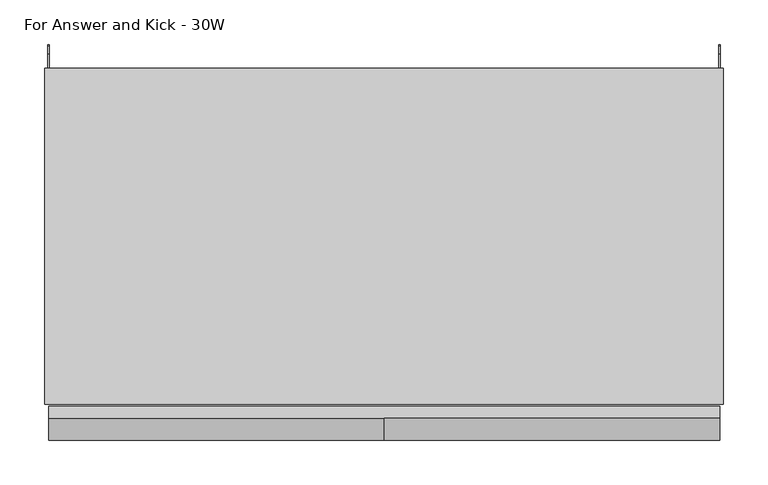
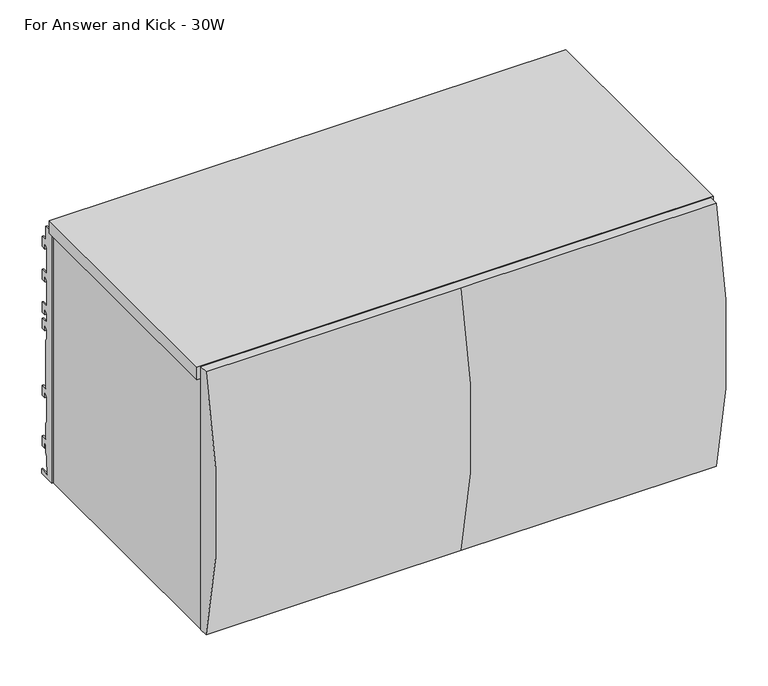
"""IFC4 building model written with IfcOpenShell, lengths in millimetres: furniture geometry, Steelcase - Universal Storage - Over the Case Bin - Radius Front : For Answer and Kick - 30W."""

from ifc_helpers import new_model, si_unit, frame, origin, place, context, project, spatial, polyline, circle_curve, outline, extrude, source, transform, mapped, element, save
from ifc_brep_helpers import plane_surface, cylinder_surface, advanced_brep


def for_answer_and_kick_30w_85c1f83b(model_context):
    return source(origin(), model_context, "Body", "SolidModel", [
        extrude(outline(polyline([(0.0, 1657.096), (15.428165, 1657.096), (15.428165, 1635.9725192), (24.6737648, 1635.9725192), (24.6737648, 1620.2499324), (17.7141651, 1620.2499324), (17.7141651, 1627.4034202), (15.428165, 1627.4034202), (13.3707653, 1623.8398995), (13.3707653, 1584.7332049), (24.4959651, 1584.7332049), (24.4959651, 1569.0106181), (17.7141651, 1569.0106181), (17.7141651, 1576.1734076), (15.428165, 1576.1734076), (13.3707653, 1572.6099624), (13.3707653, 1533.4938907), (24.6737648, 1533.4938907), (24.6737648, 1517.7713038), (17.5768, 1517.7713038), (17.5768, 1524.9340934), (15.4248855, 1524.9340934), (13.3349998, 1521.3219111), (13.3349998, 1508.4166423), (24.6737648, 1508.4166423), (24.6737648, 1492.6940555), (17.5768, 1492.6940555), (17.5768, 1499.856845), (15.4205129, 1499.856845), (13.3933344, 1496.3530466), (13.3933344, 1483.6530466), (15.428165, 1479.2893385), (15.428165, 1403.8551467), (24.6737648, 1403.8551467), (24.6737648, 1388.1325599), (17.7141651, 1388.1325599), (17.7141651, 1395.2982562), (15.428165, 1395.2982562), (13.3306079, 1391.6651808), (13.3306079, 1353.5651808), (15.428165, 1349.9321054), (15.428165, 1325.1000701), (24.6737648, 1325.1000701), (24.6737648, 1309.3774833), (17.7141651, 1309.3774833), (17.7141651, 1316.5328605), (15.428165, 1316.5328605), (15.428165, 1303.5355433), (13.2046809, 1299.684356), (13.2046809, 1282.9679719), (11.2879653, 1282.9679719), (11.2879653, 1271.9303504), (26.4009645, 1271.9303504), (26.4009645, 1265.428), (0.0, 1265.428), (0.0, 1657.096)])), frame((756.4882, 0.0, 0.0), z_axis=(1.0, 0.0, 0.0), x_axis=(0.0, 1.0, 0.0)), (0.0, 0.0, 1.0), 1.905),
        extrude(outline(polyline([(0.0, 1657.096), (15.428165, 1657.096), (15.428165, 1635.9725192), (24.6737648, 1635.9725192), (24.6737648, 1620.2499324), (17.7141651, 1620.2499324), (17.7141651, 1627.4034202), (15.428165, 1627.4034202), (13.3707653, 1623.8398995), (13.3707653, 1584.7332049), (24.4959651, 1584.7332049), (24.4959651, 1569.0106181), (17.7141651, 1569.0106181), (17.7141651, 1576.1734076), (15.428165, 1576.1734076), (13.3707653, 1572.6099624), (13.3707653, 1533.4938907), (24.6737648, 1533.4938907), (24.6737648, 1517.7713038), (17.5768, 1517.7713038), (17.5768, 1524.9340934), (15.4248855, 1524.9340934), (13.3349998, 1521.3219111), (13.3349998, 1508.4166423), (24.6737648, 1508.4166423), (24.6737648, 1492.6940555), (17.5768, 1492.6940555), (17.5768, 1499.856845), (15.4205129, 1499.856845), (13.3933344, 1496.3530466), (13.3933344, 1483.6530466), (15.428165, 1479.2893385), (15.428165, 1403.8551467), (24.6737648, 1403.8551467), (24.6737648, 1388.1325599), (17.7141651, 1388.1325599), (17.7141651, 1395.2982562), (15.428165, 1395.2982562), (13.3306079, 1391.6651808), (13.3306079, 1353.5651808), (15.428165, 1349.9321054), (15.428165, 1325.1000701), (24.6737648, 1325.1000701), (24.6737648, 1309.3774833), (17.7141651, 1309.3774833), (17.7141651, 1316.5328605), (15.428165, 1316.5328605), (15.428165, 1303.5355433), (13.2046809, 1299.684356), (13.2046809, 1282.9679719), (11.2879653, 1282.9679719), (11.2879653, 1271.9303504), (26.4009645, 1271.9303504), (26.4009645, 1265.428), (0.0, 1265.428), (0.0, 1657.096)])), frame((3.6068, 0.0, 0.0), z_axis=(1.0, 0.0, 0.0), x_axis=(0.0, 1.0, 0.0)), (0.0, 0.0, 1.0), 1.905),
        advanced_brep(
        [(757.5703, -393.0769518, 1677.2612846), (757.5703, -393.0769518, 1266.8226746), (757.5703, -379.476, 1266.8226746), (757.5703, -379.476, 1677.2612846), (381.0, -393.0769518, 1677.2612846), (381.0, -393.0769518, 1266.8226746), (4.4448587, -393.0769518, 1266.8226746), (4.4448587, -379.476, 1266.8226746), (4.4448587, -379.476, 1677.2612846), (4.4448587, -393.0769518, 1677.2612846)],
        [
            (0, 1, circle_curve(frame((757.5703, 352.6331971, 1472.0419796), z_axis=(1.0, 0.0, 0.0), x_axis=(0.0, 1.0, 0.0)), 773.4329895)),
            (1, 2),
            (2, 3),
            (3, 0),
            (0, 4),
            (4, 5, circle_curve(frame((381.0, 352.6331971, 1472.0419796), z_axis=(1.0, 0.0, 0.0), x_axis=(0.0, 1.0, 0.0)), 773.4329895)),
            (5, 1),
            (5, 6),
            (6, 7),
            (7, 2),
            (7, 8),
            (8, 3),
            (8, 9),
            (9, 4),
            (6, 9, circle_curve(frame((4.4448587, 352.6331971, 1472.0419796), z_axis=(-1.0, 0.0, 0.0), x_axis=(0.0, 1.0, 0.0)), 773.4329895)),
        ],
        [
            plane_surface(frame((757.5703, 1126.0661866, 1472.0419796), z_axis=(1.0, 0.0, 0.0), x_axis=(0.0, 0.0, 1.0))),
            cylinder_surface(frame((381.0, 352.6331971, 1472.0419796), z_axis=(1.0, 0.0, 0.0), x_axis=(0.0, 1.0, 0.0)), 773.4329895),
            plane_surface(frame((757.5703, -393.0769518, 1266.8226746), z_axis=(0.0, 0.0, -1.0), x_axis=(-1.0, 0.0, 0.0))),
            plane_surface(frame((757.5703, -379.476, 1266.8226746), z_axis=(0.0, 1.0, 0.0), x_axis=(-1.0, 0.0, 0.0))),
            plane_surface(frame((757.5703, -379.476, 1677.2612846), z_axis=(0.0, 0.0, 1.0), x_axis=(-1.0, 0.0, 0.0))),
            plane_surface(frame((4.4448587, 1126.0661866, 1472.0419796), z_axis=(-1.0, 0.0, 0.0), x_axis=(0.0, 0.0, -1.0))),
            cylinder_surface(frame((4.4448587, 352.6331971, 1472.0419796), z_axis=(1.0, 0.0, 0.0), x_axis=(0.0, 1.0, 0.0)), 773.4329895),
        ],
        [
            (0, [[1, 2, 3, 4]]),
            (1, [[-1, 5, 6, 7]]),
            (2, [[-2, -7, 8, 9, 10]]),
            (3, [[-3, -10, 11, 12]]),
            (4, [[-4, -12, 13, 14, -5]]),
            (5, [[-13, -11, -9, 15]]),
            (6, [[-15, -8, -6, -14]]),
        ],
    ),
        extrude(outline(polyline([(762.0, -377.213238), (0.0, -377.213238), (0.0, 0.0), (762.0, 0.0), (762.0, -377.213238)])), frame((0.0, 0.0, 1657.35), z_axis=(0.0, 0.0, 1.0), x_axis=(1.0, 0.0, 0.0)), (0.0, 0.0, 1.0), 19.05),
        extrude(outline(polyline([(15.875, -377.213238), (5.5118, -377.213238), (5.5118, 0.0), (15.875, 0.0), (15.875, -377.213238)])), frame((0.0, 0.0, 1265.428), z_axis=(0.0, 0.0, 1.0), x_axis=(1.0, 0.0, 0.0)), (0.0, 0.0, 1.0), 391.6679457),
        extrude(outline(polyline([(760.8568665, -377.213238), (746.125, -377.213238), (746.125, 0.0), (760.8568665, 0.0), (760.8568665, -377.213238)])), frame((0.0, 0.0, 1265.428), z_axis=(0.0, 0.0, 1.0), x_axis=(1.0, 0.0, 0.0)), (0.0, 0.0, 1.0), 391.6679457),
        extrude(outline(polyline([(-35.4584098, 1372.819257), (-27.0763996, 1372.819257), (-27.0763996, 1360.1191601), (-33.4264117, 1360.1191601), (-33.4264117, 1323.1622589), (-27.0763996, 1323.1622589), (-27.0763996, 1265.428), (-35.4584098, 1265.428), (-35.4584098, 1293.054213), (-46.1263996, 1293.054213), (-46.1263996, 1268.1875622), (-59.9694137, 1268.1875622), (-59.9694137, 1294.8575912), (-332.8542818, 1294.8575912), (-332.8542818, 1268.1875622), (-377.3042823, 1268.1875622), (-377.3042823, 1310.7072052), (-35.4584098, 1310.7072052), (-35.4584098, 1372.819257)])), frame((15.875, 0.0, 0.0), z_axis=(1.0, 0.0, 0.0), x_axis=(0.0, 1.0, 0.0)), (0.0, 0.0, 1.0), 730.25),
    ])


if __name__ == "__main__":
    model = new_model("IFC4")
    model_context = context("Model", 3, world=origin())
    ifc_project = project(units=[si_unit("LENGTHUNIT", "METRE", prefix="MILLI")], contexts=[model_context])
    site = spatial("IfcSite", under=ifc_project)
    building = spatial("IfcBuilding", under=site)
    placement = place(None, origin())
    for_answer_and_kick_30w_shape = for_answer_and_kick_30w_85c1f83b(model_context)
    element("IfcFurniture", 1, ObjectType="Steelcase - Universal Storage - Over the Case Bin - Radius Front : For Answer and Kick - 30W", at=placement, inside=building, context=model_context, shape_type="MappedRepresentation", body=[
        mapped(for_answer_and_kick_30w_shape, transform((0.0, 0.0, 0.0), x_axis=(1.0, 0.0, 0.0), y_axis=(0.0, 1.0, 0.0), z_axis=(0.0, 0.0, 1.0))),
    ])
    save(model, "model.ifc")
